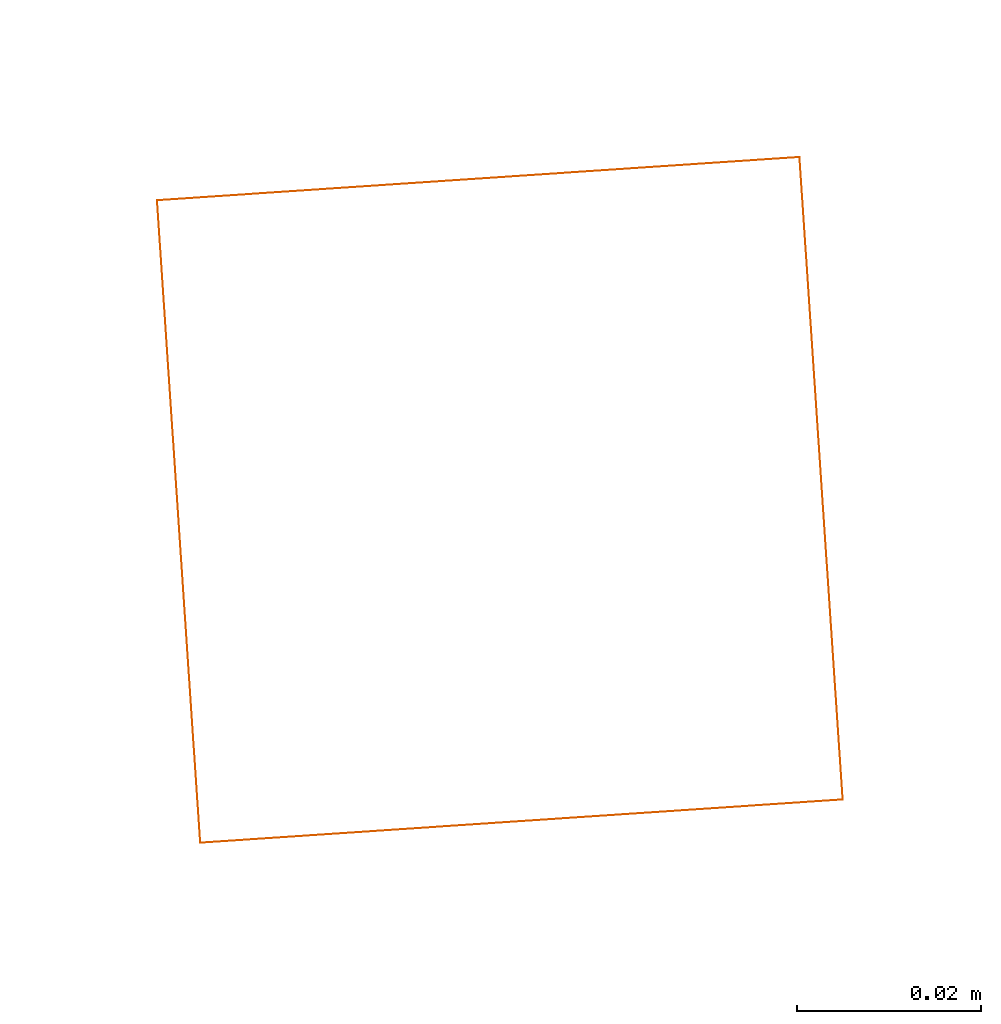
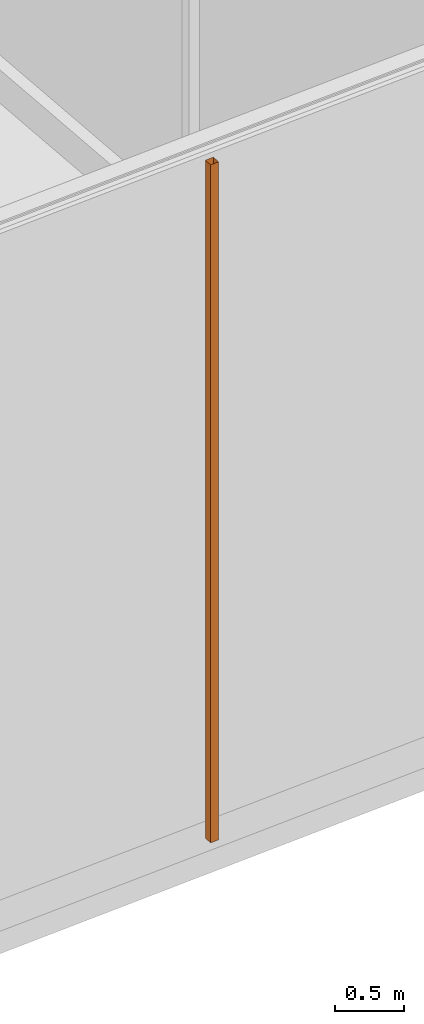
# One storey, part 60 of 112: 1 proxy.
"""IFC2X3 building model written with IfcOpenShell, lengths in millimetres."""

from ifc_helpers import new_model, entity, si_unit, converted_unit, derived_unit, money_unit, direction, frame, origin_with_axes, place, context, subcontext, project, spatial, open_shell, surface_model, source, transform, mapped, type_object, element, save


model = new_model("IFC2X3")

# Units and contexts
model_context = context("Model", 3, precision=0.01, world=origin_with_axes(), true_north=direction((0.0, 1.0)))
body_context = subcontext(model_context, "Body", "Model", "MODEL_VIEW")
ifc_project = project(units=[si_unit("LENGTHUNIT", "METRE", prefix="MILLI"), si_unit("AREAUNIT", "SQUARE_METRE"), si_unit("VOLUMEUNIT", "CUBIC_METRE"), converted_unit("PLANEANGLEUNIT", "DEGREE", entity("IfcPlaneAngleMeasure", 0.0174532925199), si_unit("PLANEANGLEUNIT", "RADIAN"), dimensions=[0, 0, 0, 0, 0, 0, 0]), si_unit("SOLIDANGLEUNIT", "STERADIAN"), money_unit("EUR"), converted_unit("TIMEUNIT", "Year", entity("IfcTimeMeasure", 31556926.0), si_unit("TIMEUNIT", "SECOND"), dimensions=[0, 0, 1, 0, 0, 0, 0]), si_unit("MASSUNIT", "GRAM", prefix="KILO"), si_unit("THERMODYNAMICTEMPERATUREUNIT", "DEGREE_CELSIUS"), si_unit("LUMINOUSINTENSITYUNIT", "LUMEN"), si_unit("ENERGYUNIT", "JOULE", prefix="MEGA"), derived_unit("THERMALCONDUCTANCEUNIT", [(si_unit("POWERUNIT", "WATT"), 1), (si_unit("LENGTHUNIT", "METRE"), -1), (si_unit("THERMODYNAMICTEMPERATUREUNIT", "KELVIN"), -1)]), derived_unit("SPECIFICHEATCAPACITYUNIT", [(si_unit("ENERGYUNIT", "JOULE"), 1), (si_unit("MASSUNIT", "GRAM", prefix="KILO"), -1), (si_unit("THERMODYNAMICTEMPERATUREUNIT", "KELVIN"), -1)]), derived_unit("MASSDENSITYUNIT", [(si_unit("MASSUNIT", "GRAM", prefix="KILO"), 1), (si_unit("VOLUMEUNIT", "CUBIC_METRE"), -1)])], contexts=[model_context])

# Site, building, storey
site_placement = place(None, origin_with_axes())
site = spatial("IfcSite", under=ifc_project, at=site_placement, Name="Politse- ja Piirivalveameti ning Päästeameti ühishoone", CompositionType="ELEMENT")
building_placement = place(site_placement, origin_with_axes())
building = spatial("IfcBuilding", under=site, at=building_placement, Name="Politse- ja Piirivalveameti ning Päästeameti ühishoone", CompositionType="ELEMENT")
storey_placement = place(building_placement, origin_with_axes())
storey = spatial("IfcBuildingStorey", under=building, at=storey_placement, Name="Esimene korrus", CompositionType="ELEMENT", Elevation=0.0)

# Proxy
building_element_proxy_type = type_object("IfcBuildingElementProxyType", Name="Downspout 23", PredefinedType="NOTDEFINED")
shared_shape = source(origin_with_axes(), body_context, "Body", "SurfaceModel", [
    surface_model("IfcShellBasedSurfaceModel", [(-35.0, -50.0, 6000.0), (-35.0, 20.0, 6000.0), (-35.0, 20.0, 0.0), (-35.0, -50.0, 0.0), (35.0, 20.0, 6000.0), (35.0, 20.0, 0.0), (35.0, -50.0, 6000.0), (35.0, -50.0, 0.0)], [open_shell([[[0, 1, 2, 3]], [[1, 4, 5, 2]], [[6, 0, 3, 7]], [[4, 6, 7, 5]]])]),
])
proxy_placement = place(storey_placement, frame((39426.417455, -46397.2093227, 177.153502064), z_axis=(0.0, 0.0, 1.0), x_axis=(0.0671567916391, -0.997742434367, 0.0)))
element("IfcBuildingElementProxy", 1, at=proxy_placement, inside=storey, type_object=building_element_proxy_type, Name="VIHMAVEETORU 4", context=body_context, shape_type="MappedRepresentation", body=[
    mapped(shared_shape, transform((0.0, 0.0, 0.0))),
])

save(model, "model.ifc")
